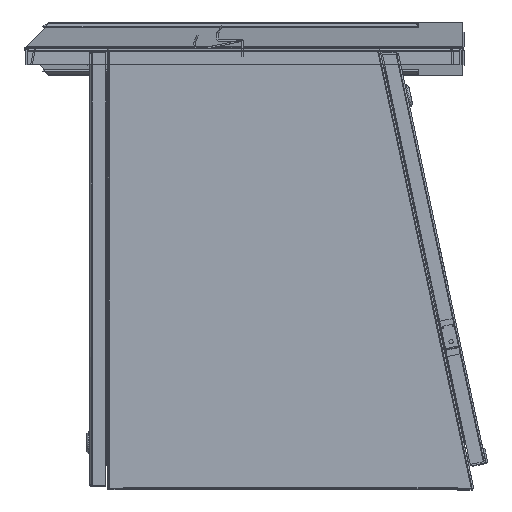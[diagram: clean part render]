
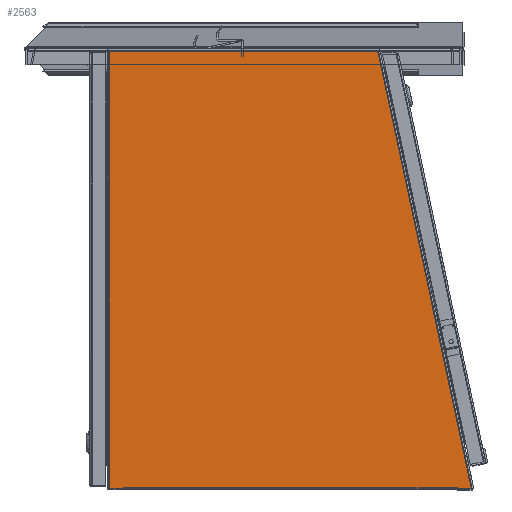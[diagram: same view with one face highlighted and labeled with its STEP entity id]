
A CAD part, left-side view. The second image highlights one B-rep face of the part: STEP entity #2563.
In plain terms, the highlighted planar face has unit normal (-1, 0, 0) as drawn and (0, 0, -1) by its records, which use the part's own axes.
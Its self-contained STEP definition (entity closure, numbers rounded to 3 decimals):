
#2563 = ADVANCED_FACE( '', ( #3558 ), #3559, .T. );
#3558 = FACE_OUTER_BOUND( '', #5728, .T. );
#3559 = PLANE( '', #5729 );
#5728 = EDGE_LOOP( '', ( #9949, #9950, #9951, #9952, #9953, #9954, #9955, #9956, #9957, #9958 ) );
#5729 = AXIS2_PLACEMENT_3D( '', #9959, #9960, #9961 );
#9949 = ORIENTED_EDGE( '', *, *, #16745, .T. );
#9950 = ORIENTED_EDGE( '', *, *, #16642, .F. );
#9951 = ORIENTED_EDGE( '', *, *, #16630, .T. );
#9952 = ORIENTED_EDGE( '', *, *, #16746, .T. );
#9953 = ORIENTED_EDGE( '', *, *, #16744, .F. );
#9954 = ORIENTED_EDGE( '', *, *, #16747, .F. );
#9955 = ORIENTED_EDGE( '', *, *, #16748, .F. );
#9956 = ORIENTED_EDGE( '', *, *, #16720, .F. );
#9957 = ORIENTED_EDGE( '', *, *, #16632, .F. );
#9958 = ORIENTED_EDGE( '', *, *, #16749, .F. );
#9959 = CARTESIAN_POINT( '', ( -211.138, -252.171, 0. ) );
#9960 = DIRECTION( '', ( 0., 0., -1. ) );
#9961 = DIRECTION( '', ( 1., 0., 0. ) );
#16630 = EDGE_CURVE( '', #18833, #18837, #18839, .T. );
#16632 = EDGE_CURVE( '', #18841, #18843, #18844, .T. );
#16642 = EDGE_CURVE( '', #18833, #18856, #18862, .T. );
#16720 = EDGE_CURVE( '', #18843, #18989, #18992, .T. );
#16744 = EDGE_CURVE( '', #19024, #19020, #19026, .T. );
#16745 = EDGE_CURVE( '', #19027, #18856, #19028, .T. );
#16746 = EDGE_CURVE( '', #18837, #19020, #19029, .T. );
#16747 = EDGE_CURVE( '', #19030, #19024, #19031, .T. );
#16748 = EDGE_CURVE( '', #18989, #19030, #19032, .T. );
#16749 = EDGE_CURVE( '', #19027, #18841, #19033, .T. );
#18833 = VERTEX_POINT( '', #22465 );
#18837 = VERTEX_POINT( '', #22471 );
#18839 = LINE( '', #22474, #22475 );
#18841 = VERTEX_POINT( '', #22477 );
#18843 = VERTEX_POINT( '', #22480 );
#18844 = LINE( '', #22481, #22482 );
#18856 = VERTEX_POINT( '', #22498 );
#18862 = LINE( '', #22505, #22506 );
#18989 = VERTEX_POINT( '', #22753 );
#18992 = LINE( '', #22766, #22767 );
#19020 = VERTEX_POINT( '', #22819 );
#19024 = VERTEX_POINT( '', #22825 );
#19026 = LINE( '', #22828, #22829 );
#19027 = VERTEX_POINT( '', #22830 );
#19028 = LINE( '', #22831, #22832 );
#19029 = LINE( '', #22833, #22834 );
#19030 = VERTEX_POINT( '', #22835 );
#19031 = LINE( '', #22836, #22837 );
#19032 = LINE( '', #22838, #22839 );
#19033 = LINE( '', #22840, #22841 );
#22465 = CARTESIAN_POINT( '', ( -191.904, -251.257, 0. ) );
#22471 = CARTESIAN_POINT( '', ( -192.666, -251.257, 0. ) );
#22474 = CARTESIAN_POINT( '', ( -192.666, -251.257, 0. ) );
#22475 = VECTOR( '', #28711, 1000. );
#22477 = CARTESIAN_POINT( '', ( 192.728, -252.171, 0. ) );
#22480 = CARTESIAN_POINT( '', ( 208.394, -252.171, 0. ) );
#22481 = CARTESIAN_POINT( '', ( -211.138, -252.171, 0. ) );
#22482 = VECTOR( '', #28713, 1000. );
#22498 = CARTESIAN_POINT( '', ( 191.966, -251.257, 0. ) );
#22505 = CARTESIAN_POINT( '', ( -191.904, -251.257, 0. ) );
#22506 = VECTOR( '', #28731, 1000. );
#22753 = CARTESIAN_POINT( '', ( 208.394, 252.171, 0. ) );
#22766 = CARTESIAN_POINT( '', ( 208.394, -252.171, 0. ) );
#22767 = VECTOR( '', #28802, 1000. );
#22819 = CARTESIAN_POINT( '', ( -192.666, -252.171, 0. ) );
#22825 = CARTESIAN_POINT( '', ( -208.332, -252.171, 0. ) );
#22828 = CARTESIAN_POINT( '', ( -211.138, -252.171, 0. ) );
#22829 = VECTOR( '', #28825, 1000. );
#22830 = CARTESIAN_POINT( '', ( 192.728, -251.257, 0. ) );
#22831 = CARTESIAN_POINT( '', ( -192.666, -251.257, 0. ) );
#22832 = VECTOR( '', #28826, 1000. );
#22833 = CARTESIAN_POINT( '', ( -192.666, -252.171, 0. ) );
#22834 = VECTOR( '', #28827, 1000. );
#22835 = CARTESIAN_POINT( '', ( -100.382, 252.171, 0. ) );
#22836 = CARTESIAN_POINT( '', ( -100.382, 252.171, 0. ) );
#22837 = VECTOR( '', #28828, 1000. );
#22838 = CARTESIAN_POINT( '', ( 211.138, 252.171, 0. ) );
#22839 = VECTOR( '', #28829, 1000. );
#22840 = CARTESIAN_POINT( '', ( 192.728, -252.171, 0. ) );
#22841 = VECTOR( '', #28830, 1000. );
#28711 = DIRECTION( '', ( -1., 0., 0. ) );
#28713 = DIRECTION( '', ( 1., 0., 0. ) );
#28731 = DIRECTION( '', ( 1., 0., 0. ) );
#28802 = DIRECTION( '', ( 0., 1., 0. ) );
#28825 = DIRECTION( '', ( 1., 0., 0. ) );
#28826 = DIRECTION( '', ( -1., 0., 0. ) );
#28827 = DIRECTION( '', ( 0., -1., 0. ) );
#28828 = DIRECTION( '', ( -0.209, -0.978, 0. ) );
#28829 = DIRECTION( '', ( -1., 0., 0. ) );
#28830 = DIRECTION( '', ( 0., -1., 0. ) );
